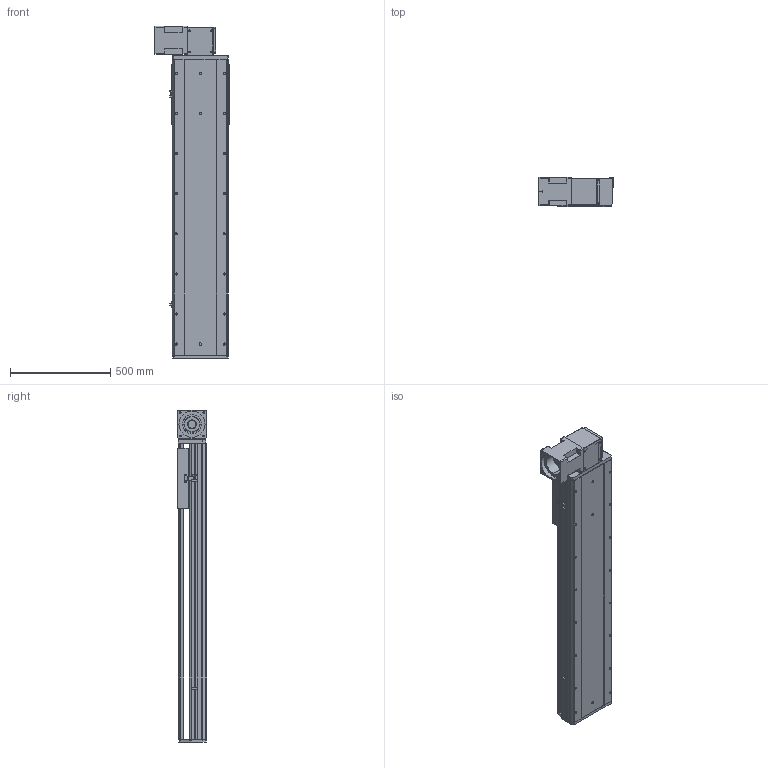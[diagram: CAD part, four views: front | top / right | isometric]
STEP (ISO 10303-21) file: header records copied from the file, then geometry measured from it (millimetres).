
FILE_DESCRIPTION (( 'STEP AP214' ), '1' );
FILE_NAME ('RTB28R-XX-1050-BR-M100-XX-C4.STEP', '2025-12-22T01:11:03', ( '' ), ( '' ), 'SwSTEP 2.0', 'SolidWorks 2018', '' );
FILE_SCHEMA (( 'AUTOMOTIVE_DESIGN' ));
Length unit declared in the file: millimetre
Products named in the file (4): RTB28S-GY-011^RTB28R-XX-XX-BR-M100-XX-C4; RTB28S-GY-004^RTB28R-XX-XX-BR-M100-XX-C4; RTB28S-GY-008^RTB28R-XX-XX-BR-M100-XX-C4; RTB28R-XX-1050-BR-M100-XX-C4
Assembly tree (3 placements, depth 2):
  RTB28R-XX-1050-BR-M100-XX-C4
    RTB28S-GY-011^RTB28R-XX-XX-BR-M100-XX-C4
    RTB28S-GY-004^RTB28R-XX-XX-BR-M100-XX-C4
    RTB28S-GY-008^RTB28R-XX-XX-BR-M100-XX-C4
Bounding box: 370 x 145 x 1657 mm (x, y, z)
Volume: 30403030.4 mm3; surface area: 2932145.8 mm2
Topology: 3 solids, 4 shells, 988 faces, 2610 edges, 1676 vertices
Faces by surface type: plane 456, cylinder 361, bspline 87, cone 80, torus 4
Entity records: 42202 total; most frequent: CARTESIAN_POINT 11245, ORIENTED_EDGE 5156, DIRECTION 4998, EDGE_CURVE 2578, AXIS2_PLACEMENT_3D 1713, VERTEX_POINT 1676, LINE 1572, VECTOR 1572
